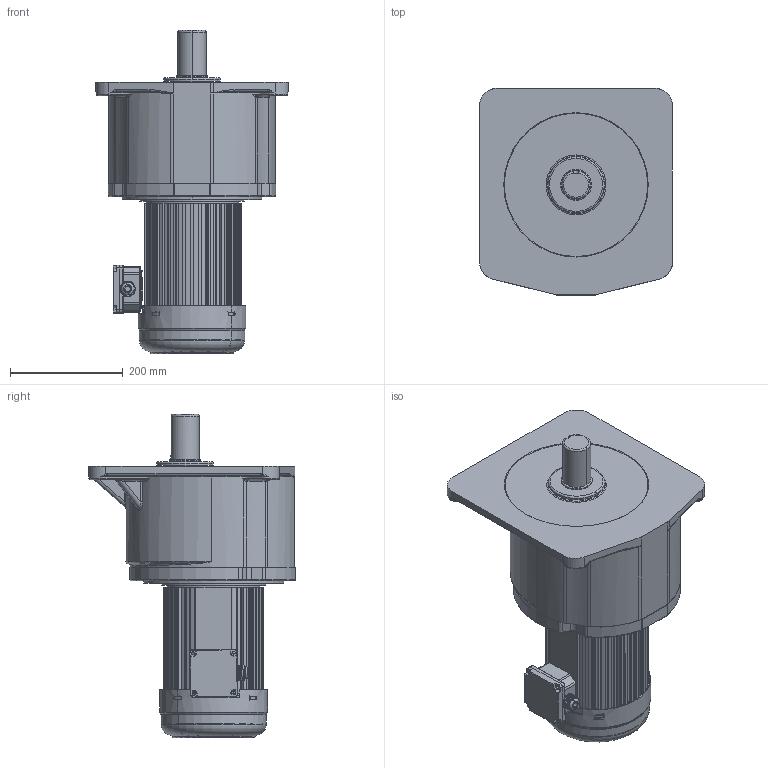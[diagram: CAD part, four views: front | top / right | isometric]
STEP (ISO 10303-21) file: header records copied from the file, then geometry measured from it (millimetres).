
FILE_DESCRIPTION (( 'STEP AP203' ), '1' );
FILE_NAME ('2200W饜6#蕾宒.STEP', '2020-04-15T02:41:08', ( 'china' ), ( 'china' ), 'SwSTEP 2.0', 'SolidWorks 2019', '' );
FILE_SCHEMA (( 'CONFIG_CONTROL_DESIGN' ));
Length unit declared in the file: millimetre
Products named in the file (8): 1.5KW6#蕾宒眊极; 1500W綴傷裔; 2200W饜6#蕾宒; 瑞欶; 蜊輛綴諉盄碟釱3; 諉芛; 蜊輛綴諉盄碟裔3; 2200W儂褲
Assembly tree (7 placements, depth 2):
  2200W饜6#蕾宒
    1500W綴傷裔
    瑞欶
    蜊輛綴諉盄碟釱3
    諉芛
    蜊輛綴諉盄碟裔3
    2200W儂褲
    1.5KW6#蕾宒眊极
Bounding box: 342 x 367 x 572.98 mm (x, y, z)
Volume: 14089952.1 mm3; surface area: 1420903.4 mm2
Topology: 7 solids, 9 shells, 3091 faces, 8180 edges, 5139 vertices
Faces by surface type: plane 1255, cylinder 1012, bspline 336, torus 317, cone 123, sphere 48
Entity records: 120377 total; most frequent: CARTESIAN_POINT 44087, ORIENTED_EDGE 16244, DIRECTION 15282, EDGE_CURVE 8122, AXIS2_PLACEMENT_3D 5427, VERTEX_POINT 5125, LINE 4428, VECTOR 4428
